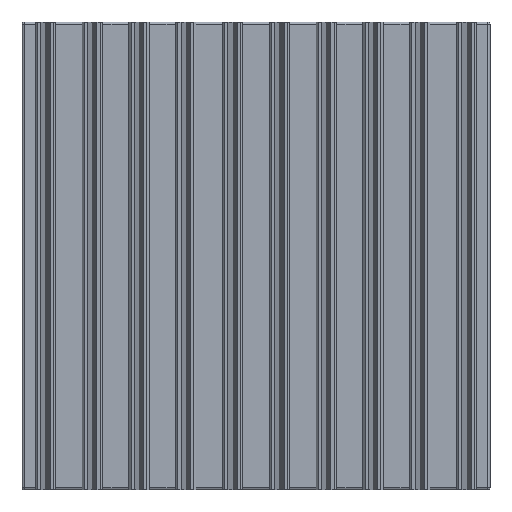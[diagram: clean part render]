
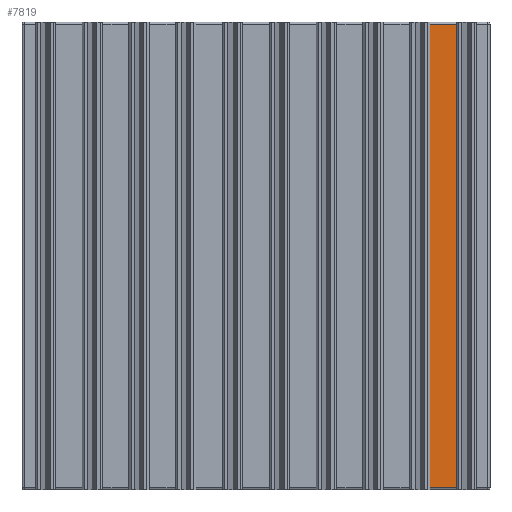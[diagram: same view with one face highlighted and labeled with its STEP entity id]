
A CAD part, front view. The second image highlights one B-rep face of the part: STEP entity #7819.
In plain terms, the highlighted planar face has unit normal (0, -1, 0).
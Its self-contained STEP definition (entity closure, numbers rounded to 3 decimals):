
#269=PLANE('',#8326);
#670=FACE_OUTER_BOUND('',#1082,.T.);
#1082=EDGE_LOOP('',(#6850,#6851,#6852,#6853));
#1534=LINE('',#11168,#2570);
#1537=LINE('',#11177,#2573);
#1902=LINE('',#11949,#2938);
#1903=LINE('',#11951,#2939);
#2570=VECTOR('',#8878,10.);
#2573=VECTOR('',#8887,10.);
#2938=VECTOR('',#9384,10.);
#2939=VECTOR('',#9387,10.);
#3654=VERTEX_POINT('',#11165);
#3655=VERTEX_POINT('',#11167);
#3658=VERTEX_POINT('',#11175);
#3999=VERTEX_POINT('',#11947);
#4426=EDGE_CURVE('',#3654,#3655,#1534,.T.);
#4431=EDGE_CURVE('',#3654,#3658,#1537,.T.);
#4829=EDGE_CURVE('',#3999,#3658,#1902,.T.);
#4830=EDGE_CURVE('',#3655,#3999,#1903,.T.);
#6850=ORIENTED_EDGE('',*,*,#4426,.F.);
#6851=ORIENTED_EDGE('',*,*,#4431,.T.);
#6852=ORIENTED_EDGE('',*,*,#4829,.F.);
#6853=ORIENTED_EDGE('',*,*,#4830,.F.);
#7819=ADVANCED_FACE('',(#670),#269,.T.);
#8326=AXIS2_PLACEMENT_3D('',#12532,#10068,#10069);
#8878=DIRECTION('',(-1.,0.,0.));
#8887=DIRECTION('',(0.,0.,1.));
#9384=DIRECTION('',(1.,0.,0.));
#9387=DIRECTION('',(0.,0.,1.));
#10068=DIRECTION('center_axis',(0.,-1.,0.));
#10069=DIRECTION('ref_axis',(1.,0.,0.));
#11165=CARTESIAN_POINT('',(87.95,-5.,0.5));
#11167=CARTESIAN_POINT('',(82.05,-5.,0.5));
#11168=CARTESIAN_POINT('',(41.025,-5.,0.5));
#11175=CARTESIAN_POINT('',(87.95,-5.,99.5));
#11177=CARTESIAN_POINT('',(87.95,-5.,10.));
#11947=CARTESIAN_POINT('',(82.05,-5.,99.5));
#11949=CARTESIAN_POINT('',(41.025,-5.,99.5));
#11951=CARTESIAN_POINT('',(82.05,-5.,0.));
#12532=CARTESIAN_POINT('Origin',(82.05,-5.,0.));
